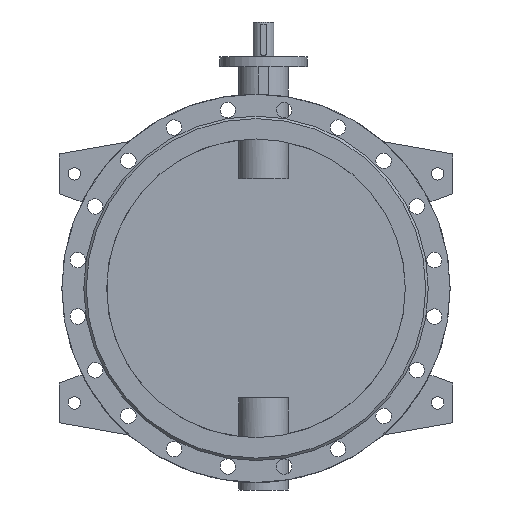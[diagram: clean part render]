
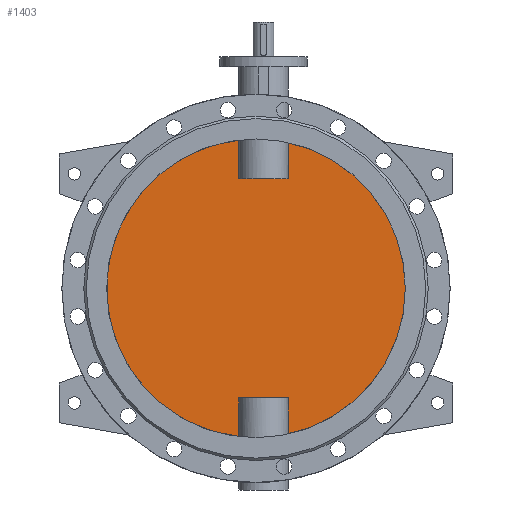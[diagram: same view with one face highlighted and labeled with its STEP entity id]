
A CAD part, front view. The second image highlights one B-rep face of the part: STEP entity #1403.
In plain terms, the highlighted planar face has unit normal (0, -1, 0).
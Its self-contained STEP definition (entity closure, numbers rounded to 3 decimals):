
#1403=ADVANCED_FACE('',(#2957),#2959,.F.);
#2957=FACE_BOUND('',#2958,.T.);
#2958=EDGE_LOOP('',(#3785,#3786,#3787,#3788,#3789,#3790,#3791,#3792));
#2959=PLANE('',#2960);
#2960=AXIS2_PLACEMENT_3D('',#2961,#2962,#2963);
#2961=CARTESIAN_POINT('',(0.,-5.,0.));
#2962=DIRECTION('',(0.,1.,0.));
#2963=DIRECTION('',(1.,0.,0.));
#3785=ORIENTED_EDGE('',*,*,#4199,.T.);
#3786=ORIENTED_EDGE('',*,*,#4215,.T.);
#3787=ORIENTED_EDGE('',*,*,#4216,.T.);
#3788=ORIENTED_EDGE('',*,*,#4217,.T.);
#3789=ORIENTED_EDGE('',*,*,#4201,.T.);
#3790=ORIENTED_EDGE('',*,*,#4218,.T.);
#3791=ORIENTED_EDGE('',*,*,#4219,.T.);
#3792=ORIENTED_EDGE('',*,*,#4220,.T.);
#4199=EDGE_CURVE('',#4863,#4864,#4865,.F.);
#4201=EDGE_CURVE('',#4868,#4866,#4869,.F.);
#4215=EDGE_CURVE('',#4864,#4895,#4896,.T.);
#4216=EDGE_CURVE('',#4895,#4897,#4898,.F.);
#4217=EDGE_CURVE('',#4897,#4868,#4899,.F.);
#4218=EDGE_CURVE('',#4866,#4900,#4901,.F.);
#4219=EDGE_CURVE('',#4900,#4902,#4903,.F.);
#4220=EDGE_CURVE('',#4902,#4863,#4904,.T.);
#4863=VERTEX_POINT('',#7033);
#4864=VERTEX_POINT('',#7034);
#4865=CIRCLE('',#7035,300.);
#4866=VERTEX_POINT('',#7039);
#4868=VERTEX_POINT('',#7126);
#4869=CIRCLE('',#7127,300.);
#4895=VERTEX_POINT('',#7529);
#4896=LINE('',#7530,#7531);
#4897=VERTEX_POINT('',#7533);
#4898=LINE('',#7534,#7535);
#4899=LINE('',#7537,#7538);
#4900=VERTEX_POINT('',#7540);
#4901=LINE('',#7541,#7542);
#4902=VERTEX_POINT('',#7544);
#4903=LINE('',#7545,#7546);
#4904=LINE('',#7548,#7549);
#7033=CARTESIAN_POINT('',(64.749,-5.,-292.929));
#7034=CARTESIAN_POINT('',(64.749,-5.,292.929));
#7035=AXIS2_PLACEMENT_3D('',#7036,#7037,#7038);
#7036=CARTESIAN_POINT('',(0.,-5.,0.));
#7037=DIRECTION('',(0.,1.,0.));
#7038=DIRECTION('',(0.216,0.,0.976));
#7039=CARTESIAN_POINT('',(-34.749,-5.,-297.981));
#7126=CARTESIAN_POINT('',(-34.749,-5.,297.981));
#7127=AXIS2_PLACEMENT_3D('',#7128,#7129,#7130);
#7128=CARTESIAN_POINT('',(0.,-5.,0.));
#7129=DIRECTION('',(0.,1.,0.));
#7130=DIRECTION('',(-0.116,0.,-0.993));
#7529=CARTESIAN_POINT('',(64.749,-5.,220.));
#7530=CARTESIAN_POINT('',(64.749,-5.,292.929));
#7531=VECTOR('',#7532,1.);
#7532=DIRECTION('',(0.,0.,-1.));
#7533=CARTESIAN_POINT('',(-34.749,-5.,220.));
#7534=CARTESIAN_POINT('',(-34.749,-5.,220.));
#7535=VECTOR('',#7536,1.);
#7536=DIRECTION('',(1.,0.,0.));
#7537=CARTESIAN_POINT('',(-34.749,-5.,297.981));
#7538=VECTOR('',#7539,1.);
#7539=DIRECTION('',(0.,0.,-1.));
#7540=CARTESIAN_POINT('',(-34.749,-5.,-220.));
#7541=CARTESIAN_POINT('',(-34.749,-5.,-220.));
#7542=VECTOR('',#7543,1.);
#7543=DIRECTION('',(0.,0.,-1.));
#7544=CARTESIAN_POINT('',(64.749,-5.,-220.));
#7545=CARTESIAN_POINT('',(64.749,-5.,-220.));
#7546=VECTOR('',#7547,1.);
#7547=DIRECTION('',(-1.,0.,0.));
#7548=CARTESIAN_POINT('',(64.749,-5.,-220.));
#7549=VECTOR('',#7550,1.);
#7550=DIRECTION('',(0.,0.,-1.));
